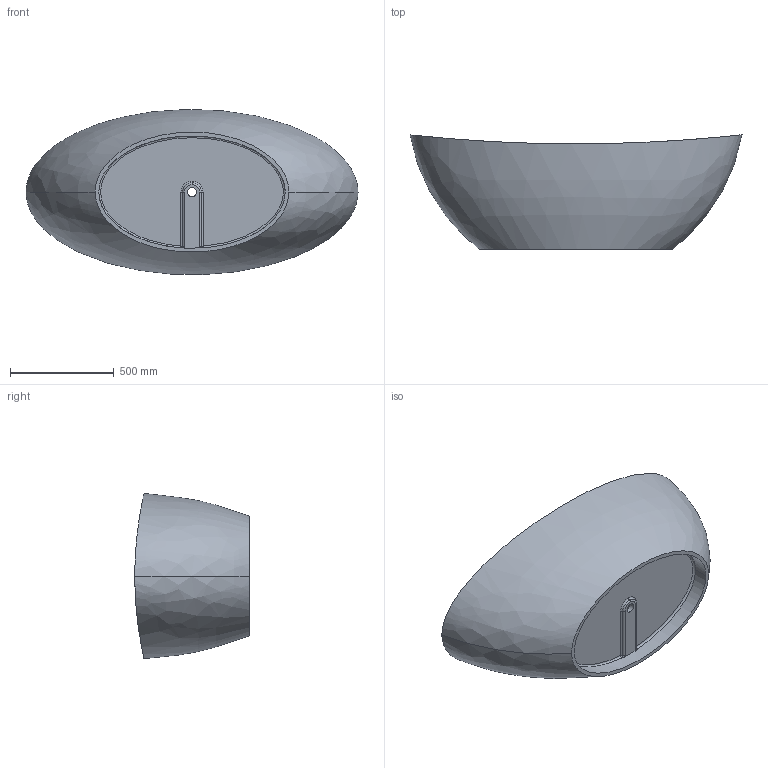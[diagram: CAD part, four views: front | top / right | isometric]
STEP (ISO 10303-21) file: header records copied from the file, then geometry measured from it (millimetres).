
FILE_DESCRIPTION (( 'STEP AP203' ), '1' );
FILE_NAME ('TC-S52 (1)坫苤1600.STEP', '2013-06-28T00:58:26', ( 'admin' ), ( '' ), 'SwSTEP 2.0', 'SolidWorks 2011', '' );
FILE_SCHEMA (( 'CONFIG_CONTROL_DESIGN' ));
Length unit declared in the file: millimetre
Products named in the file (1): TC-S52 (1)坫苤1600
Bounding box: 1600 x 551.11 x 795.69 mm (x, y, z)
Volume: 55916578.4 mm3; surface area: 4521300.7 mm2
Topology: 1 solids, 1 shells, 34 faces, 85 edges, 53 vertices
Faces by surface type: bspline 11, torus 8, cylinder 7, plane 4, cone 2, sphere 2
Entity records: 9461 total; most frequent: CARTESIAN_POINT 8662, ORIENTED_EDGE 166, DIRECTION 128, EDGE_CURVE 83, AXIS2_PLACEMENT_3D 58, VERTEX_POINT 53, EDGE_LOOP 38, FACE_OUTER_BOUND 34
